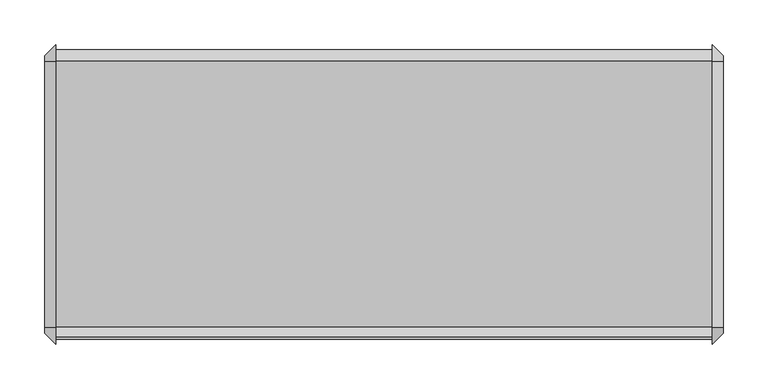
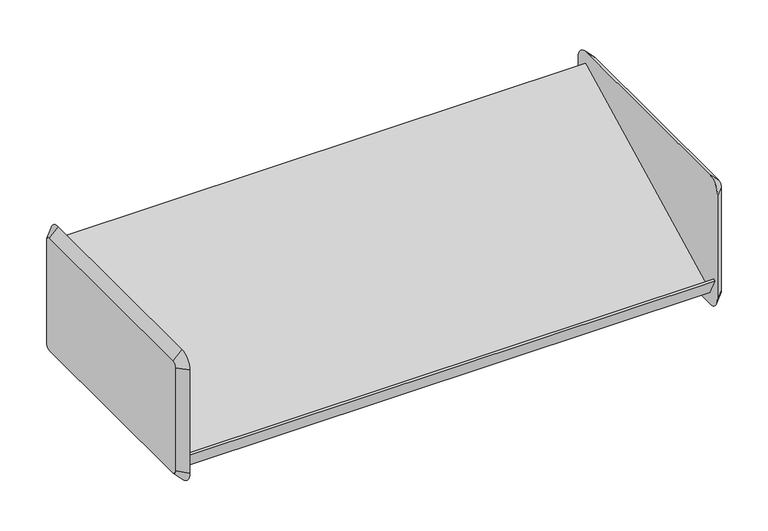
"""IFC4 building model written with IfcOpenShell, lengths in millimetres: furniture geometry."""

from ifc_helpers import new_model, si_unit, frame, origin, place, context, project, spatial, polyline, circle_curve, outline, extrude, source, transform, mapped, element, save
from ifc_brep_helpers import plane_surface, revolved_surface, advanced_brep


def furniture_fc1e19d1(model_context):
    return source(origin(), model_context, "Body", "SolidModel", [
        advanced_brep(
        [(257.0579955, 161.925, 1816.1), (257.0579955, -136.525, 1816.1), (257.0579955, -142.875, 1809.75), (257.0579955, -142.875, 1657.35), (257.0579955, -136.525, 1651.0), (257.0579955, 161.925, 1651.0), (257.0579955, 168.275, 1657.35), (257.0579955, 168.275, 1809.75), (244.3579955, 161.925, 1828.8), (244.3579955, 180.975, 1809.75), (244.3579955, 180.975, 1657.35), (244.3579955, 161.925, 1638.3), (244.3579955, -136.525, 1638.3), (244.3579955, -155.575, 1657.35), (244.3579955, -155.575, 1809.75), (244.3579955, -136.525, 1828.8)],
        [
            (0, 1),
            (1, 2, circle_curve(frame((257.0579955, -136.525, 1809.75), z_axis=(1.0, 2.0730084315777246e-12, -2.1529444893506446e-12), x_axis=(2.15291077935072e-12, 0.0, 1.0)), 6.35)),
            (2, 3),
            (3, 4, circle_curve(frame((257.0579955, -136.525, 1657.35), z_axis=(1.0, 2.0596857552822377e-12, 2.046363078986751e-12), x_axis=(2.059647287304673e-12, -1.0, 0.0)), 6.35)),
            (4, 5),
            (5, 6, circle_curve(frame((257.0579955, 161.925, 1657.35), z_axis=(1.0, 2.0889956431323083e-12, -2.06767936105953e-12), x_axis=(-2.0676547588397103e-12, 0.0, -1.0)), 6.35)),
            (6, 7),
            (7, 0, circle_curve(frame((257.0579955, 161.925, 1809.75), z_axis=(1.0, 2.0756729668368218e-12, 1.9824142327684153e-12), x_axis=(-2.0756622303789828e-12, 1.0, 0.0)), 6.35)),
            (8, 9, circle_curve(frame((244.3579955, 161.925, 1809.75), z_axis=(-1.0, -2.0756729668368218e-12, -1.9824142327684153e-12), x_axis=(-2.0756622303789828e-12, 1.0, 0.0)), 19.05)),
            (9, 10),
            (10, 11, circle_curve(frame((244.3579955, 161.925, 1657.35), z_axis=(-1.0, -2.0889956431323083e-12, 2.06767936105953e-12), x_axis=(-2.0676547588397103e-12, 0.0, -1.0)), 19.05)),
            (11, 12),
            (12, 13, circle_curve(frame((244.3579955, -136.525, 1657.35), z_axis=(-1.0, -2.0596857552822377e-12, -2.046363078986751e-12), x_axis=(2.059647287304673e-12, -1.0, 0.0)), 19.05)),
            (13, 14),
            (14, 15, circle_curve(frame((244.3579955, -136.525, 1809.75), z_axis=(-1.0, -2.0730084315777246e-12, 2.1529444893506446e-12), x_axis=(2.15291077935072e-12, 0.0, 1.0)), 19.05)),
            (15, 8),
            (15, 1),
            (0, 8),
            (14, 2),
            (13, 3),
            (12, 4),
            (11, 5),
            (10, 6),
            (9, 7),
        ],
        [
            plane_surface(frame((257.0579955, 12.7, 1733.55), z_axis=(1.0, 0.0, 0.0), x_axis=(0.0, -1.0, 0.0))),
            plane_surface(frame((244.3579955, 12.7, 1733.55), z_axis=(-1.0, 0.0, 0.0), x_axis=(0.0, -1.0, 0.0))),
            plane_surface(frame((244.3579955, 12.7, 1828.8), z_axis=(0.7071067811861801, 0.0, 0.707106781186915), x_axis=(0.0, -1.0, 0.0))),
            revolved_surface(polyline([(257.0579955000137, -136.525, 1816.0999999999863), (244.3579955, -136.525, 1828.8)]), (263.4079955, -136.525, 1809.75), (-1.0, -2.0730084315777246e-12, 2.1529444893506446e-12)),
            plane_surface(frame((244.3579955, -155.575, 1733.55), z_axis=(0.7071067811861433, -0.7071067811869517, 0.0), x_axis=(0.0, 0.0, -1.0))),
            revolved_surface(polyline([(257.0579955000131, -142.87499999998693, 1657.35), (244.3579955, -155.575, 1657.35)]), (263.4079955, -136.525, 1657.35), (-1.0, -2.0596857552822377e-12, -2.046363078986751e-12)),
            plane_surface(frame((244.3579955, 12.7, 1638.3), z_axis=(0.7071067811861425, 0.0, -0.7071067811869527), x_axis=(0.0, 1.0, 0.0))),
            revolved_surface(polyline([(257.0579955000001, 161.925, 1651.0), (244.3579954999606, 161.925, 1638.2999999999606)]), (263.4079955, 161.925, 1657.35), (-1.0, -2.0889956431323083e-12, 2.06767936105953e-12)),
            plane_surface(frame((244.3579955, 180.975, 1733.55), z_axis=(0.7071067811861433, 0.7071067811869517, 0.0), x_axis=(0.0, 0.0, 1.0))),
            revolved_surface(polyline([(257.0579955, 168.275, 1809.75), (244.35799549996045, 180.97500000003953, 1809.75)]), (263.4079955, 161.925, 1809.75), (-1.0, -2.0756729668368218e-12, -1.9824142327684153e-12)),
        ],
        [
            (0, [[1, 2, 3, 4, 5, 6, 7, 8]]),
            (1, [[9, 10, 11, 12, 13, 14, 15, 16]]),
            (2, [[-16, 17, -1, 18]]),
            (3, [[-15, 19, -2, -17]]),
            (4, [[-14, 20, -3, -19]]),
            (5, [[-13, 21, -4, -20]]),
            (6, [[-12, 22, -5, -21]]),
            (7, [[-11, 23, -6, -22]]),
            (8, [[-10, 24, -7, -23]]),
            (9, [[-9, -18, -8, -24]]),
        ],
    ),
        advanced_brep(
        [(-504.9420045, -136.525, 1816.1), (-504.9420045, 161.925, 1816.1), (-504.9420045, 168.275, 1809.75), (-504.9420045, 168.275, 1657.35), (-504.9420045, 161.925, 1651.0), (-504.9420045, -136.525, 1651.0), (-504.9420045, -142.875, 1657.35), (-504.9420045, -142.875, 1809.75), (-492.2420045, -136.525, 1828.8), (-492.2420045, -155.575, 1809.75), (-492.2420045, -155.575, 1657.35), (-492.2420045, -136.525, 1638.3), (-492.2420045, 161.925, 1638.3), (-492.2420045, 180.975, 1657.35), (-492.2420045, 180.975, 1809.75), (-492.2420045, 161.925, 1828.8)],
        [
            (0, 1),
            (1, 2, circle_curve(frame((-504.9420045, 161.925, 1809.75), z_axis=(-1.0, 0.0, 0.0), x_axis=(0.0, 0.0, 1.0)), 6.35)),
            (2, 3),
            (3, 4, circle_curve(frame((-504.9420045, 161.925, 1657.35), z_axis=(-1.0, 0.0, 0.0), x_axis=(0.0, 1.0, 0.0)), 6.35)),
            (4, 5),
            (5, 6, circle_curve(frame((-504.9420045, -136.525, 1657.35), z_axis=(-1.0, 0.0, 0.0), x_axis=(0.0, 0.0, -1.0)), 6.35)),
            (6, 7),
            (7, 0, circle_curve(frame((-504.9420045, -136.525, 1809.75), z_axis=(-1.0, 0.0, 0.0), x_axis=(0.0, -1.0, 0.0)), 6.35)),
            (8, 9, circle_curve(frame((-492.2420045, -136.525, 1809.75), z_axis=(1.0, 0.0, 0.0), x_axis=(0.0, -1.0, 0.0)), 19.05)),
            (9, 10),
            (10, 11, circle_curve(frame((-492.2420045, -136.525, 1657.35), z_axis=(1.0, 0.0, 0.0), x_axis=(0.0, 0.0, -1.0)), 19.05)),
            (11, 12),
            (12, 13, circle_curve(frame((-492.2420045, 161.925, 1657.35), z_axis=(1.0, 0.0, 0.0), x_axis=(0.0, 1.0, 0.0)), 19.05)),
            (13, 14),
            (14, 15, circle_curve(frame((-492.2420045, 161.925, 1809.75), z_axis=(1.0, 0.0, 0.0), x_axis=(0.0, 0.0, 1.0)), 19.05)),
            (15, 8),
            (15, 1),
            (0, 8),
            (14, 2),
            (13, 3),
            (12, 4),
            (11, 5),
            (10, 6),
            (9, 7),
        ],
        [
            plane_surface(frame((-504.9420045, 12.7, 1733.55), z_axis=(-1.0, 0.0, 0.0), x_axis=(0.0, -1.0, 0.0))),
            plane_surface(frame((-492.2420045, 12.7, 1733.55), z_axis=(1.0, 0.0, 0.0), x_axis=(0.0, -1.0, 0.0))),
            plane_surface(frame((-492.2420045, 12.7, 1828.8), z_axis=(-0.7071067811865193, 0.0, 0.7071067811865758), x_axis=(0.0, 1.0, 0.0))),
            revolved_surface(polyline([(-504.9420045, 161.925, 1816.1), (-492.2420045, 161.925, 1828.8)]), (-511.2920045, 161.925, 1809.75), (1.0, 0.0, 0.0)),
            plane_surface(frame((-492.2420045, 180.975, 1733.55), z_axis=(-0.7071067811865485, 0.7071067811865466, 0.0), x_axis=(0.0, 0.0, -1.0))),
            revolved_surface(polyline([(-504.9420045, 168.27500000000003, 1657.35), (-492.2420045, 180.975, 1657.35)]), (-511.2920045, 161.925, 1657.35), (1.0, 0.0, 0.0)),
            plane_surface(frame((-492.2420045, 12.7, 1638.3), z_axis=(-0.707106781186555, 0.0, -0.70710678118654), x_axis=(0.0, -1.0, 0.0))),
            revolved_surface(polyline([(-504.9420045, -136.525, 1651.0), (-492.2420045, -136.525, 1638.3)]), (-511.2920045, -136.525, 1657.35), (1.0, 0.0, 0.0)),
            plane_surface(frame((-492.2420045, -155.575, 1733.55), z_axis=(-0.7071067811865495, -0.7071067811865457, 0.0), x_axis=(0.0, 0.0, 1.0))),
            revolved_surface(polyline([(-504.9420045, -142.87500000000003, 1809.75), (-492.2420045, -155.575, 1809.75)]), (-511.2920045, -136.525, 1809.75), (1.0, 0.0, 0.0)),
        ],
        [
            (0, [[1, 2, 3, 4, 5, 6, 7, 8]]),
            (1, [[9, 10, 11, 12, 13, 14, 15, 16]]),
            (2, [[-16, 17, -1, 18]]),
            (3, [[-15, 19, -2, -17]]),
            (4, [[-14, 20, -3, -19]]),
            (5, [[-13, 21, -4, -20]]),
            (6, [[-12, 22, -5, -21]]),
            (7, [[-11, 23, -6, -22]]),
            (8, [[-10, 24, -7, -23]]),
            (9, [[-9, -18, -8, -24]]),
        ],
    ),
        extrude(outline(polyline([(-137.2094993, 1655.2179666), (-149.845093, 1679.6467844), (-147.0173828, 1681.0907216), (-135.8404765, 1659.4820334), (162.5893131, 1811.8717194), (175.2453599, 1788.2470972), (172.4171401, 1786.8028998), (161.2606869, 1807.6282806), (-137.2094993, 1655.2179666)])), frame((-492.2420045, 0.0, 0.0), z_axis=(1.0, 0.0, 0.0), x_axis=(0.0, 1.0, 0.0)), (0.0, 0.0, 1.0), 736.6),
    ])


if __name__ == "__main__":
    model = new_model("IFC4")
    model_context = context("Model", 3, world=origin())
    ifc_project = project(units=[si_unit("LENGTHUNIT", "METRE", prefix="MILLI")], contexts=[model_context])
    site = spatial("IfcSite", under=ifc_project)
    building = spatial("IfcBuilding", under=site)
    placement = place(None, origin())
    furniture_shape = furniture_fc1e19d1(model_context)
    element("IfcFurniture", 1, ObjectType="HermanMiller_ActionOffice_A3220_B-StyleStorageDisplay : Display 13\"D x 30\"W", at=placement, inside=building, context=model_context, shape_type="MappedRepresentation", body=[
        mapped(furniture_shape, transform((0.0, 0.0, 0.0), x_axis=(1.0, 0.0, 0.0), y_axis=(0.0, 1.0, 0.0), z_axis=(0.0, 0.0, 1.0))),
    ])
    save(model, "model.ifc")
